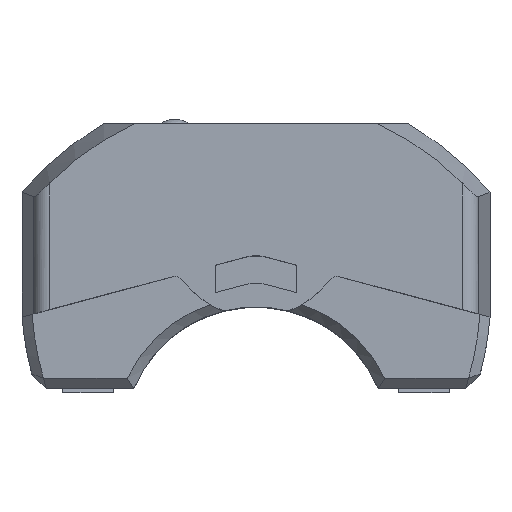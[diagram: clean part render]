
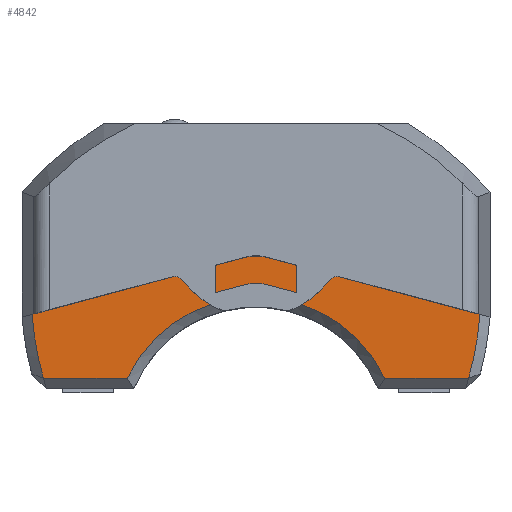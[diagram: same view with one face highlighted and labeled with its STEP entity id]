
A CAD part, top view. The second image highlights one B-rep face of the part: STEP entity #4842.
In plain terms, the highlighted planar face has unit normal (0, 0, 1).
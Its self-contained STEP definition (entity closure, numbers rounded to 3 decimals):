
#14 = CARTESIAN_POINT ( 'NONE',  ( -5.087, 0.393, 26. ) ) ;
#66 = DIRECTION ( 'NONE',  ( 0., 1., 0. ) ) ;
#165 = ORIENTED_EDGE ( 'NONE', *, *, #3759, .T. ) ;
#176 = ORIENTED_EDGE ( 'NONE', *, *, #3544, .T. ) ;
#212 = ORIENTED_EDGE ( 'NONE', *, *, #4437, .T. ) ;
#229 = VERTEX_POINT ( 'NONE', #909 ) ;
#246 = LINE ( 'NONE', #450, #2139 ) ;
#274 = CARTESIAN_POINT ( 'NONE',  ( -6.64, -3.907, 26. ) ) ;
#383 = DIRECTION ( 'NONE',  ( 1., 0., 0. ) ) ;
#404 = CARTESIAN_POINT ( 'NONE',  ( 10.176, -3.907, 26. ) ) ;
#420 = CARTESIAN_POINT ( 'NONE',  ( -0.64, -6.907, 26. ) ) ;
#429 = EDGE_CURVE ( 'NONE', #4571, #2181, #1853, .T. ) ;
#450 = CARTESIAN_POINT ( 'NONE',  ( -2.285, 1.733, 26. ) ) ;
#470 = CARTESIAN_POINT ( 'NONE',  ( 9.805, -3.907, 26. ) ) ;
#597 = CIRCLE ( 'NONE', #2155, 15.5 ) ;
#671 = LINE ( 'NONE', #1224, #1147 ) ;
#695 = CARTESIAN_POINT ( 'NONE',  ( -0.64, -6.907, 26. ) ) ;
#761 = VERTEX_POINT ( 'NONE', #4803 ) ;
#762 = EDGE_CURVE ( 'NONE', #4064, #4715, #2547, .T. ) ;
#804 = CARTESIAN_POINT ( 'NONE',  ( 3.807, 0.393, 26. ) ) ;
#806 = AXIS2_PLACEMENT_3D ( 'NONE', #14, #2629, #383 ) ;
#810 = DIRECTION ( 'NONE',  ( 1., 0., 0. ) ) ;
#834 = DIRECTION ( 'NONE',  ( -0.966, -0.259, 0. ) ) ;
#847 = DIRECTION ( 'NONE',  ( 1., 0., 0. ) ) ;
#874 = LINE ( 'NONE', #4057, #3741 ) ;
#909 = CARTESIAN_POINT ( 'NONE',  ( -0.122, 0.689, 26. ) ) ;
#948 = AXIS2_PLACEMENT_3D ( 'NONE', #959, #1367, #3972 ) ;
#959 = CARTESIAN_POINT ( 'NONE',  ( -0.64, -4.407, 26. ) ) ;
#981 = PLANE ( 'NONE',  #948 ) ;
#1048 = EDGE_LOOP ( 'NONE', ( #3565, #4355, #1407, #176, #2849, #212, #3156, #1343, #1360, #1932, #1704, #3984, #165, #4425 ) ) ;
#1069 = DIRECTION ( 'NONE',  ( 1., 0., 0. ) ) ;
#1093 = CIRCLE ( 'NONE', #1565, 2. ) ;
#1147 = VECTOR ( 'NONE', #4205, 1000. ) ;
#1179 = CARTESIAN_POINT ( 'NONE',  ( -0.64, -1.242, 26. ) ) ;
#1182 = DIRECTION ( 'NONE',  ( 1., 0., 0. ) ) ;
#1221 = CARTESIAN_POINT ( 'NONE',  ( 1.36, 0.292, 26. ) ) ;
#1224 = CARTESIAN_POINT ( 'NONE',  ( 0.669, 0.477, 26. ) ) ;
#1242 = CARTESIAN_POINT ( 'NONE',  ( -11.084, -3.907, 26. ) ) ;
#1261 = CIRCLE ( 'NONE', #2831, 7. ) ;
#1331 = VERTEX_POINT ( 'NONE', #4369 ) ;
#1336 = CIRCLE ( 'NONE', #806, 15.5 ) ;
#1343 = ORIENTED_EDGE ( 'NONE', *, *, #3974, .T. ) ;
#1359 = EDGE_CURVE ( 'NONE', #2181, #4613, #1703, .T. ) ;
#1360 = ORIENTED_EDGE ( 'NONE', *, *, #429, .T. ) ;
#1367 = DIRECTION ( 'NONE',  ( 0., 0., 1. ) ) ;
#1407 = ORIENTED_EDGE ( 'NONE', *, *, #1536, .T. ) ;
#1536 = EDGE_CURVE ( 'NONE', #3262, #761, #874, .T. ) ;
#1554 = VECTOR ( 'NONE', #4770, 1000. ) ;
#1557 = DIRECTION ( 'NONE',  ( 1., 0., 0. ) ) ;
#1565 = AXIS2_PLACEMENT_3D ( 'NONE', #1179, #3797, #1557 ) ;
#1616 = CARTESIAN_POINT ( 'NONE',  ( -2.64, -0.199, 26. ) ) ;
#1671 = CARTESIAN_POINT ( 'NONE',  ( -2.64, -4.407, 26. ) ) ;
#1683 = AXIS2_PLACEMENT_3D ( 'NONE', #2024, #4622, #2400 ) ;
#1703 = LINE ( 'NONE', #3661, #3568 ) ;
#1704 = ORIENTED_EDGE ( 'NONE', *, *, #2522, .T. ) ;
#1779 = CARTESIAN_POINT ( 'NONE',  ( 10.369, -0.776, 26. ) ) ;
#1830 = EDGE_CURVE ( 'NONE', #1331, #2587, #3562, .T. ) ;
#1839 = CARTESIAN_POINT ( 'NONE',  ( -1.157, 2.035, 26. ) ) ;
#1852 = VECTOR ( 'NONE', #3825, 1000. ) ;
#1853 = LINE ( 'NONE', #1671, #3715 ) ;
#1920 = CIRCLE ( 'NONE', #1683, 2. ) ;
#1932 = ORIENTED_EDGE ( 'NONE', *, *, #1359, .T. ) ;
#2024 = CARTESIAN_POINT ( 'NONE',  ( -0.64, 0.103, 26. ) ) ;
#2139 = VECTOR ( 'NONE', #834, 1000. ) ;
#2155 = AXIS2_PLACEMENT_3D ( 'NONE', #804, #3424, #1182 ) ;
#2181 = VERTEX_POINT ( 'NONE', #4018 ) ;
#2239 = VERTEX_POINT ( 'NONE', #1839 ) ;
#2357 = VERTEX_POINT ( 'NONE', #4765 ) ;
#2400 = DIRECTION ( 'NONE',  ( 1., 0., 0. ) ) ;
#2432 = AXIS2_PLACEMENT_3D ( 'NONE', #695, #3299, #1069 ) ;
#2482 = EDGE_CURVE ( 'NONE', #2587, #3262, #1336, .T. ) ;
#2522 = EDGE_CURVE ( 'NONE', #4613, #229, #1093, .T. ) ;
#2547 = LINE ( 'NONE', #274, #1554 ) ;
#2587 = VERTEX_POINT ( 'NONE', #470 ) ;
#2629 = DIRECTION ( 'NONE',  ( 0., 0., 1. ) ) ;
#2831 = AXIS2_PLACEMENT_3D ( 'NONE', #420, #3042, #810 ) ;
#2849 = ORIENTED_EDGE ( 'NONE', *, *, #4467, .T. ) ;
#3020 = VERTEX_POINT ( 'NONE', #4521 ) ;
#3042 = DIRECTION ( 'NONE',  ( 0., 0., -1. ) ) ;
#3100 = EDGE_CURVE ( 'NONE', #229, #4038, #671, .T. ) ;
#3156 = ORIENTED_EDGE ( 'NONE', *, *, #762, .T. ) ;
#3262 = VERTEX_POINT ( 'NONE', #1779 ) ;
#3299 = DIRECTION ( 'NONE',  ( 0., 0., -1. ) ) ;
#3424 = DIRECTION ( 'NONE',  ( 0., 0., 1. ) ) ;
#3453 = CARTESIAN_POINT ( 'NONE',  ( 1.36, -4.407, 26. ) ) ;
#3544 = EDGE_CURVE ( 'NONE', #761, #2239, #1920, .T. ) ;
#3562 = LINE ( 'NONE', #404, #4545 ) ;
#3565 = ORIENTED_EDGE ( 'NONE', *, *, #1830, .T. ) ;
#3568 = VECTOR ( 'NONE', #3680, 1000. ) ;
#3576 = EDGE_CURVE ( 'NONE', #3020, #1331, #4637, .T. ) ;
#3661 = CARTESIAN_POINT ( 'NONE',  ( -1.949, 0.477, 26. ) ) ;
#3680 = DIRECTION ( 'NONE',  ( 0.966, 0.259, 0. ) ) ;
#3715 = VECTOR ( 'NONE', #66, 1000. ) ;
#3741 = VECTOR ( 'NONE', #3920, 1000. ) ;
#3759 = EDGE_CURVE ( 'NONE', #4038, #3020, #4173, .T. ) ;
#3797 = DIRECTION ( 'NONE',  ( 0., 0., -1. ) ) ;
#3824 = CARTESIAN_POINT ( 'NONE',  ( -1.157, 0.689, 26. ) ) ;
#3825 = DIRECTION ( 'NONE',  ( 0., -1., 0. ) ) ;
#3920 = DIRECTION ( 'NONE',  ( -0.966, 0.259, 0. ) ) ;
#3972 = DIRECTION ( 'NONE',  ( 1., 0., 0. ) ) ;
#3974 = EDGE_CURVE ( 'NONE', #4715, #4571, #1261, .T. ) ;
#3984 = ORIENTED_EDGE ( 'NONE', *, *, #3100, .T. ) ;
#4018 = CARTESIAN_POINT ( 'NONE',  ( -2.64, 0.292, 26. ) ) ;
#4038 = VERTEX_POINT ( 'NONE', #1221 ) ;
#4057 = CARTESIAN_POINT ( 'NONE',  ( 1.006, 1.733, 26. ) ) ;
#4064 = VERTEX_POINT ( 'NONE', #1242 ) ;
#4173 = LINE ( 'NONE', #3453, #1852 ) ;
#4205 = DIRECTION ( 'NONE',  ( 0.966, -0.259, 0. ) ) ;
#4341 = FACE_OUTER_BOUND ( 'NONE', #1048, .T. ) ;
#4355 = ORIENTED_EDGE ( 'NONE', *, *, #2482, .T. ) ;
#4369 = CARTESIAN_POINT ( 'NONE',  ( 5.685, -3.907, 26. ) ) ;
#4425 = ORIENTED_EDGE ( 'NONE', *, *, #3576, .T. ) ;
#4437 = EDGE_CURVE ( 'NONE', #2357, #4064, #597, .T. ) ;
#4467 = EDGE_CURVE ( 'NONE', #2239, #2357, #246, .T. ) ;
#4521 = CARTESIAN_POINT ( 'NONE',  ( 1.36, -0.199, 26. ) ) ;
#4545 = VECTOR ( 'NONE', #847, 1000. ) ;
#4571 = VERTEX_POINT ( 'NONE', #1616 ) ;
#4613 = VERTEX_POINT ( 'NONE', #3824 ) ;
#4622 = DIRECTION ( 'NONE',  ( 0., 0., 1. ) ) ;
#4624 = CARTESIAN_POINT ( 'NONE',  ( -6.964, -3.907, 26. ) ) ;
#4637 = CIRCLE ( 'NONE', #2432, 7. ) ;
#4715 = VERTEX_POINT ( 'NONE', #4624 ) ;
#4765 = CARTESIAN_POINT ( 'NONE',  ( -11.649, -0.776, 26. ) ) ;
#4770 = DIRECTION ( 'NONE',  ( 1., 0., 0. ) ) ;
#4803 = CARTESIAN_POINT ( 'NONE',  ( -0.122, 2.035, 26. ) ) ;
#4842 = ADVANCED_FACE ( 'NONE', ( #4341 ), #981, .T. ) ;
